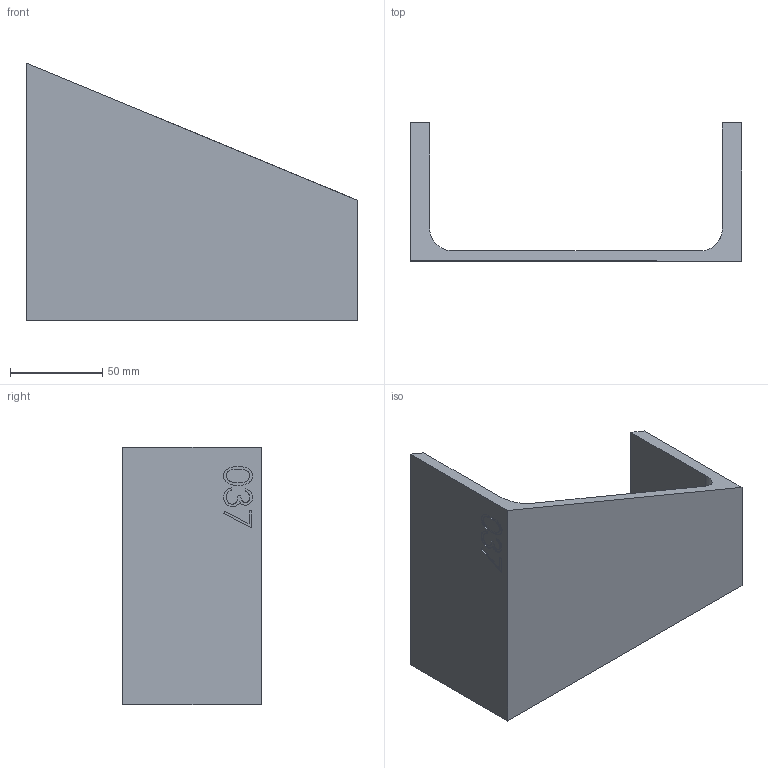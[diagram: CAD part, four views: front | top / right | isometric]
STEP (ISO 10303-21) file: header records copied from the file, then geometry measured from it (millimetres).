
FILE_DESCRIPTION (( 'STEP AP214' ), '1' );
FILE_NAME ('CCJ029-REP.037 - MONTANT ESCALIER INTERMEDIAIRE DOUBLE 3.STEP', '2024-01-31T09:04:36', ( '' ), ( '' ), 'SwSTEP 2.0', 'SolidWorks 2021', '' );
FILE_SCHEMA (( 'AUTOMOTIVE_DESIGN' ));
Length unit declared in the file: millimetre
Products named in the file (1): CCJ029-REP.037 - MONTANT ESCALIER INTERMEDIAIRE DOUBLE 3
Bounding box: 180 x 75 x 140 mm (x, y, z)
Volume: 257894.2 mm3; surface area: 70936.1 mm2
Topology: 1 solids, 1 shells, 48 faces, 126 edges, 84 vertices
Faces by surface type: plane 23, bspline 23, cylinder 2
Entity records: 2892 total; most frequent: CARTESIAN_POINT 1832, ORIENTED_EDGE 252, DIRECTION 132, EDGE_CURVE 126, VERTEX_POINT 84, LINE 76, VECTOR 76, EDGE_LOOP 52
